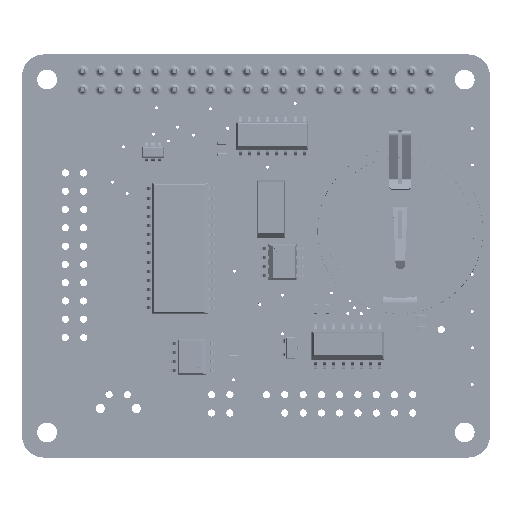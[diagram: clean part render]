
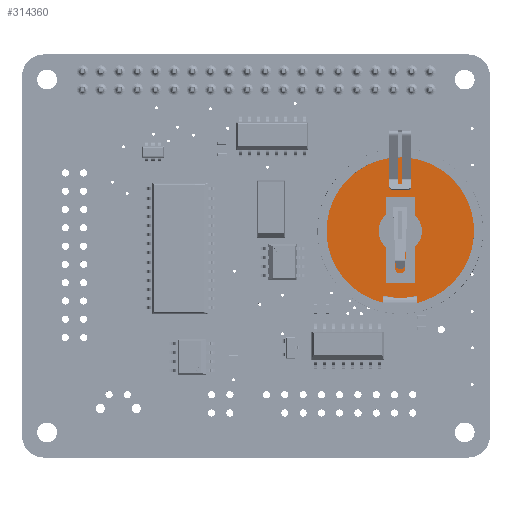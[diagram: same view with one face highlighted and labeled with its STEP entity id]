
A CAD part, top view. The second image highlights one B-rep face of the part: STEP entity #314360.
In plain terms, the highlighted planar face has unit normal (0, 0, 1).
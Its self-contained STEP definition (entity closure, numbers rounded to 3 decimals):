
#1847=FACE_BOUND('',#31288,.T.);
#2477=CIRCLE('',#343240,10.25);
#2487=CIRCLE('',#343254,10.25);
#2488=CIRCLE('',#343255,3.);
#2489=CIRCLE('',#343256,3.);
#3066=FACE_OUTER_BOUND('',#31287,.T.);
#31287=EDGE_LOOP('',(#202612,#202613));
#31288=EDGE_LOOP('',(#202614,#202615));
#143242=VERTEX_POINT('',#471834);
#143243=VERTEX_POINT('',#471836);
#143267=VERTEX_POINT('',#471893);
#143268=VERTEX_POINT('',#471894);
#158818=EDGE_CURVE('',#143243,#143242,#2477,.T.);
#158846=EDGE_CURVE('',#143242,#143243,#2487,.T.);
#158847=EDGE_CURVE('',#143267,#143268,#2488,.T.);
#158848=EDGE_CURVE('',#143268,#143267,#2489,.T.);
#202612=ORIENTED_EDGE('',*,*,#158818,.T.);
#202613=ORIENTED_EDGE('',*,*,#158846,.T.);
#202614=ORIENTED_EDGE('',*,*,#158847,.T.);
#202615=ORIENTED_EDGE('',*,*,#158848,.T.);
#286683=PLANE('',#343253);
#314360=ADVANCED_FACE('',(#3066,#1847),#286683,.F.);
#343240=AXIS2_PLACEMENT_3D('',#471837,#372921,#372922);
#343253=AXIS2_PLACEMENT_3D('',#471891,#372965,#372966);
#343254=AXIS2_PLACEMENT_3D('',#471892,#372967,#372968);
#343255=AXIS2_PLACEMENT_3D('',#471895,#372969,#372970);
#343256=AXIS2_PLACEMENT_3D('',#471896,#372971,#372972);
#372921=DIRECTION('center_axis',(0.,0.,1.));
#372922=DIRECTION('ref_axis',(1.,0.,0.));
#372965=DIRECTION('center_axis',(0.,0.,-1.));
#372966=DIRECTION('ref_axis',(-1.,0.,0.));
#372967=DIRECTION('center_axis',(0.,0.,1.));
#372968=DIRECTION('ref_axis',(1.,0.,0.));
#372969=DIRECTION('center_axis',(0.,0.,-1.));
#372970=DIRECTION('ref_axis',(1.,0.,0.));
#372971=DIRECTION('center_axis',(0.,0.,-1.));
#372972=DIRECTION('ref_axis',(1.,0.,0.));
#471834=CARTESIAN_POINT('',(13.75,2.391,4.22));
#471836=CARTESIAN_POINT('',(13.571,3.041,4.22));
#471837=CARTESIAN_POINT('Origin',(3.783,0.,4.22));
#471891=CARTESIAN_POINT('Origin',(14.033,0.,4.22));
#471892=CARTESIAN_POINT('Origin',(3.783,0.,4.22));
#471893=CARTESIAN_POINT('',(6.783,0.,4.22));
#471894=CARTESIAN_POINT('',(0.783,0.,4.22));
#471895=CARTESIAN_POINT('Origin',(3.783,0.,4.22));
#471896=CARTESIAN_POINT('Origin',(3.783,0.,4.22));
